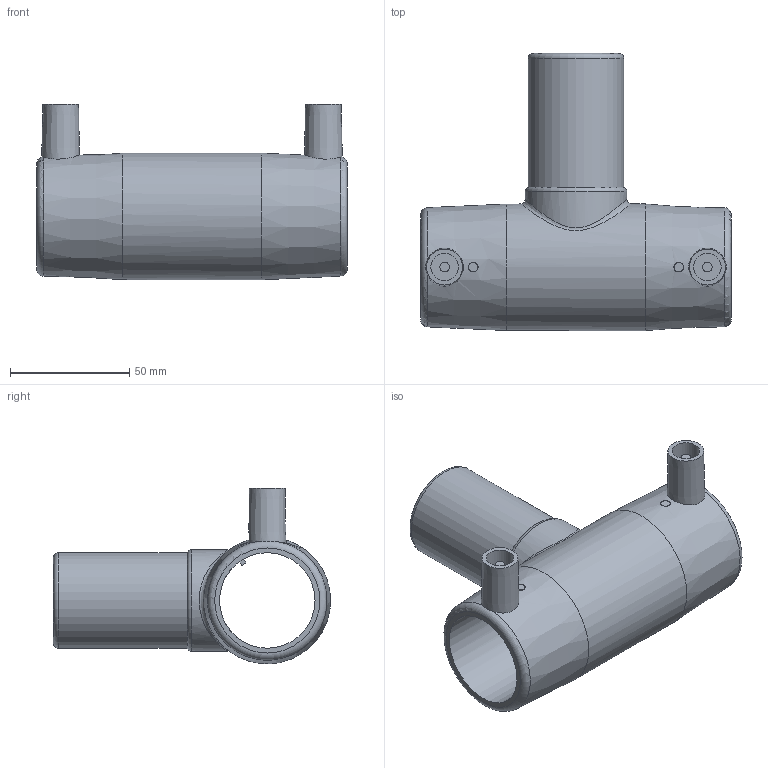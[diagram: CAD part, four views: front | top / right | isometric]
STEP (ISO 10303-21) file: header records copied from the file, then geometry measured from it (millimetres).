
FILE_DESCRIPTION(/* description */ ('Unknown'),/* implementation_level */ '2;1');
FILE_NAME(/* name */ 'TEP040C',/* time_stamp */ '2021-04-21T09:25:30+02:00',/* author */ ('Unknown'),/* organization */ ('Unknown'),/* preprocessor_version */ 'ST-DEVELOPER v16.7',/* originating_system */ 'Solid Edge',/* authorisation */ 'Unknown');
FILE_SCHEMA (('AUTOMOTIVE_DESIGN {1 0 10303 214 3 1 1}'));
Length unit declared in the file: millimetre
Products named in the file (1): TEP040C
Bounding box: 130 x 116 x 73.5 mm (x, y, z)
Volume: 142774.9 mm3; surface area: 56256.5 mm2
Topology: 1 solids, 1 shells, 37 faces, 82 edges, 53 vertices
Faces by surface type: plane 17, cylinder 11, torus 4, cone 4, bspline 1
Full cylindrical faces by diameter (mm): 4 x4, 11.5 x2, 32.6 x1, 40 x2, 42.5 x1, 53 x1
Entity records: 1148 total; most frequent: CARTESIAN_POINT 433, DIRECTION 146, ORIENTED_EDGE 102, EDGE_LOOP 68, FACE_BOUND 68, AXIS2_PLACEMENT_3D 67, EDGE_CURVE 51, VERTEX_POINT 43
